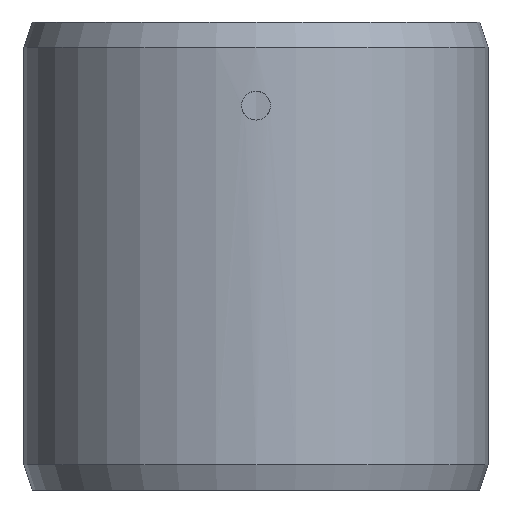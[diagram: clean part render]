
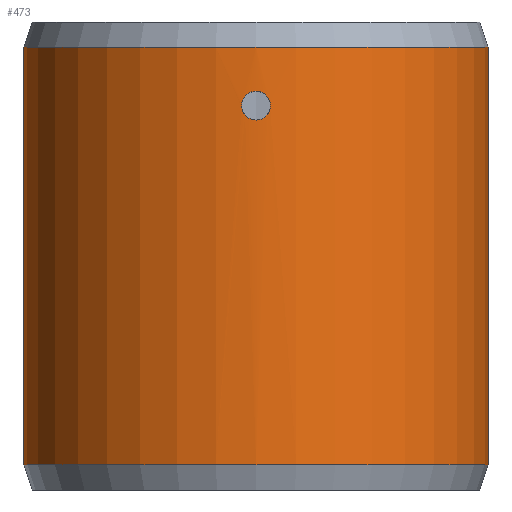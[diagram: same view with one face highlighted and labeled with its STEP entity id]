
A CAD part, front view. The second image highlights one B-rep face of the part: STEP entity #473.
In plain terms, the highlighted cylindrical face has radius 27.781 mm (diameter 55.562 mm), a partial arc.
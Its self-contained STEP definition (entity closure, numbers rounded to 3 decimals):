
#33 = CARTESIAN_POINT ( 'NONE',  ( 1.063, -27.761, 16.62 ) ) ;
#34 = CARTESIAN_POINT ( 'NONE',  ( 1.727, -27.727, 17.773 ) ) ;
#38 = DIRECTION ( 'NONE',  ( 0., 0., -1. ) ) ;
#47 = CARTESIAN_POINT ( 'NONE',  ( 27.781, 0., -25. ) ) ;
#49 = DIRECTION ( 'NONE',  ( 1., 0., 0. ) ) ;
#52 = CARTESIAN_POINT ( 'NONE',  ( -1.51, -27.74, 17.131 ) ) ;
#62 = EDGE_CURVE ( 'NONE', #222, #710, #960, .T. ) ;
#66 = CARTESIAN_POINT ( 'NONE',  ( -1.553, -27.738, 18.765 ) ) ;
#74 = DIRECTION ( 'NONE',  ( 1., 0., 0. ) ) ;
#109 = CARTESIAN_POINT ( 'NONE',  ( 0.87, -27.768, 16.491 ) ) ;
#121 = VERTEX_POINT ( 'NONE', #537 ) ;
#129 = CARTESIAN_POINT ( 'NONE',  ( -1.727, -27.728, 17.774 ) ) ;
#140 = CARTESIAN_POINT ( 'NONE',  ( -0.227, -27.781, 19.716 ) ) ;
#145 = VECTOR ( 'NONE', #38, 1000. ) ;
#161 = CARTESIAN_POINT ( 'NONE',  ( -27.781, 0., -25. ) ) ;
#197 = CARTESIAN_POINT ( 'NONE',  ( 1.499, -27.741, 18.866 ) ) ;
#200 = CARTESIAN_POINT ( 'NONE',  ( -1.716, -27.728, 18.227 ) ) ;
#211 = ORIENTED_EDGE ( 'NONE', *, *, #297, .T. ) ;
#215 = CARTESIAN_POINT ( 'NONE',  ( -0.766, -27.771, 19.552 ) ) ;
#222 = VERTEX_POINT ( 'NONE', #863 ) ;
#252 = CARTESIAN_POINT ( 'NONE',  ( 0.225, -27.781, 19.727 ) ) ;
#272 = VERTEX_POINT ( 'NONE', #47 ) ;
#275 = CARTESIAN_POINT ( 'NONE',  ( -0.447, -27.778, 16.328 ) ) ;
#276 = CARTESIAN_POINT ( 'NONE',  ( 0., 0., 28. ) ) ;
#280 = CARTESIAN_POINT ( 'NONE',  ( -1.639, -27.733, 18.556 ) ) ;
#282 = DIRECTION ( 'NONE',  ( -1., 0., 0. ) ) ;
#285 = CARTESIAN_POINT ( 'NONE',  ( 27.781, 0., 25. ) ) ;
#296 = CARTESIAN_POINT ( 'NONE',  ( -1.054, -27.761, 19.373 ) ) ;
#297 = EDGE_CURVE ( 'NONE', #121, #630, #741, .T. ) ;
#333 = CARTESIAN_POINT ( 'NONE',  ( 1.302, -27.751, 16.859 ) ) ;
#337 = CARTESIAN_POINT ( 'NONE',  ( -0.114, -27.781, 16.273 ) ) ;
#339 = CARTESIAN_POINT ( 'NONE',  ( 1.061, -27.761, 19.381 ) ) ;
#343 = EDGE_CURVE ( 'NONE', #710, #222, #724, .T. ) ;
#348 = CYLINDRICAL_SURFACE ( 'NONE', #700, 27.781 ) ;
#352 = CARTESIAN_POINT ( 'NONE',  ( -0.766, -27.771, 16.448 ) ) ;
#355 = VECTOR ( 'NONE', #894, 1000. ) ;
#357 = CIRCLE ( 'NONE', #499, 27.781 ) ;
#363 = CARTESIAN_POINT ( 'NONE',  ( -1.374, -27.747, 19.053 ) ) ;
#391 = AXIS2_PLACEMENT_3D ( 'NONE', #954, #501, #49 ) ;
#398 = EDGE_LOOP ( 'NONE', ( #798, #474, #211, #607 ) ) ;
#406 = CARTESIAN_POINT ( 'NONE',  ( 1.5, -27.741, 17.136 ) ) ;
#411 = CARTESIAN_POINT ( 'NONE',  ( -27.781, 0., 28. ) ) ;
#418 = CARTESIAN_POINT ( 'NONE',  ( 1.716, -27.728, 18.228 ) ) ;
#421 = CARTESIAN_POINT ( 'NONE',  ( -1.053, -27.761, 16.626 ) ) ;
#437 = CARTESIAN_POINT ( 'NONE',  ( 0., -27.781, 19.727 ) ) ;
#443 = CARTESIAN_POINT ( 'NONE',  ( -1.302, -27.751, 19.14 ) ) ;
#444 = EDGE_CURVE ( 'NONE', #630, #272, #796, .T. ) ;
#473 = ADVANCED_FACE ( 'NONE', ( #770, #745 ), #348, .T. ) ;
#474 = ORIENTED_EDGE ( 'NONE', *, *, #967, .T. ) ;
#487 = CARTESIAN_POINT ( 'NONE',  ( 1.683, -27.73, 17.549 ) ) ;
#493 = CARTESIAN_POINT ( 'NONE',  ( 0.868, -27.768, 19.51 ) ) ;
#499 = AXIS2_PLACEMENT_3D ( 'NONE', #978, #524, #74 ) ;
#500 = CARTESIAN_POINT ( 'NONE',  ( 0., -27.781, 16.273 ) ) ;
#501 = DIRECTION ( 'NONE',  ( 0., 0., 1. ) ) ;
#505 = CARTESIAN_POINT ( 'NONE',  ( -1.381, -27.747, 16.938 ) ) ;
#510 = VERTEX_POINT ( 'NONE', #285 ) ;
#512 = CARTESIAN_POINT ( 'NONE',  ( 0., -27.781, 16.273 ) ) ;
#524 = DIRECTION ( 'NONE',  ( 0., 0., -1. ) ) ;
#537 = CARTESIAN_POINT ( 'NONE',  ( -27.781, 0., 25. ) ) ;
#553 = CARTESIAN_POINT ( 'NONE',  ( 0.455, -27.778, 16.319 ) ) ;
#558 = CARTESIAN_POINT ( 'NONE',  ( 1.727, -27.728, 18.115 ) ) ;
#562 = EDGE_LOOP ( 'NONE', ( #629, #875 ) ) ;
#564 = CARTESIAN_POINT ( 'NONE',  ( 0.453, -27.778, 19.682 ) ) ;
#574 = CARTESIAN_POINT ( 'NONE',  ( -1.682, -27.73, 17.547 ) ) ;
#594 = CARTESIAN_POINT ( 'NONE',  ( -0.449, -27.778, 19.672 ) ) ;
#607 = ORIENTED_EDGE ( 'NONE', *, *, #444, .T. ) ;
#629 = ORIENTED_EDGE ( 'NONE', *, *, #343, .T. ) ;
#630 = VERTEX_POINT ( 'NONE', #161 ) ;
#639 = CARTESIAN_POINT ( 'NONE',  ( 0.228, -27.781, 16.273 ) ) ;
#653 = CARTESIAN_POINT ( 'NONE',  ( 1.552, -27.738, 18.767 ) ) ;
#657 = CARTESIAN_POINT ( 'NONE',  ( 1.373, -27.747, 19.054 ) ) ;
#661 = CARTESIAN_POINT ( 'NONE',  ( -1.727, -27.728, 18.112 ) ) ;
#675 = CARTESIAN_POINT ( 'NONE',  ( -0.556, -27.776, 19.639 ) ) ;
#700 = AXIS2_PLACEMENT_3D ( 'NONE', #276, #725, #282 ) ;
#710 = VERTEX_POINT ( 'NONE', #512 ) ;
#721 = CARTESIAN_POINT ( 'NONE',  ( 1.638, -27.733, 18.558 ) ) ;
#722 = CARTESIAN_POINT ( 'NONE',  ( -1.672, -27.731, 18.448 ) ) ;
#724 = B_SPLINE_CURVE_WITH_KNOTS ( 'NONE', 3,
 ( #500, #337, #882, #275, #804, #352, #884, #421, #956, #505, #52, #574, #129, #661, #200, #722, #280, #66, #898, #363, #443, #827, #296, #742, #215, #675, #594, #140, #971, #437 ),
 .UNSPECIFIED., .F., .F.,
 ( 4, 2, 2, 2, 2, 2, 2, 2, 2, 2, 2, 2, 2, 2, 4 ),
 ( 0., 0., 0.001, 0.001, 0.001, 0.002, 0.003, 0.003, 0.003, 0.004, 0.004, 0.004, 0.005, 0.005, 0.005 ),
 .UNSPECIFIED. ) ;
#725 = DIRECTION ( 'NONE',  ( 0., 0., -1. ) ) ;
#741 = LINE ( 'NONE', #411, #145 ) ;
#742 = CARTESIAN_POINT ( 'NONE',  ( -0.867, -27.768, 19.498 ) ) ;
#744 = EDGE_CURVE ( 'NONE', #510, #272, #885, .T. ) ;
#745 = FACE_BOUND ( 'NONE', #562, .T. ) ;
#770 = FACE_OUTER_BOUND ( 'NONE', #398, .T. ) ;
#792 = CARTESIAN_POINT ( 'NONE',  ( 1.672, -27.731, 18.448 ) ) ;
#796 = CIRCLE ( 'NONE', #391, 27.781 ) ;
#798 = ORIENTED_EDGE ( 'NONE', *, *, #744, .F. ) ;
#804 = CARTESIAN_POINT ( 'NONE',  ( -0.557, -27.776, 16.361 ) ) ;
#820 = CARTESIAN_POINT ( 'NONE',  ( 27.781, 0., 28. ) ) ;
#827 = CARTESIAN_POINT ( 'NONE',  ( -1.141, -27.758, 19.302 ) ) ;
#863 = CARTESIAN_POINT ( 'NONE',  ( 0., -27.781, 19.727 ) ) ;
#869 = CARTESIAN_POINT ( 'NONE',  ( 1.375, -27.747, 16.948 ) ) ;
#875 = ORIENTED_EDGE ( 'NONE', *, *, #62, .T. ) ;
#876 = CARTESIAN_POINT ( 'NONE',  ( 1.3, -27.751, 19.143 ) ) ;
#882 = CARTESIAN_POINT ( 'NONE',  ( -0.226, -27.781, 16.284 ) ) ;
#884 = CARTESIAN_POINT ( 'NONE',  ( -0.865, -27.768, 16.501 ) ) ;
#885 = LINE ( 'NONE', #820, #355 ) ;
#894 = DIRECTION ( 'NONE',  ( 0., 0., -1. ) ) ;
#898 = CARTESIAN_POINT ( 'NONE',  ( -1.499, -27.741, 18.866 ) ) ;
#935 = CARTESIAN_POINT ( 'NONE',  ( 1.553, -27.738, 17.235 ) ) ;
#942 = CARTESIAN_POINT ( 'NONE',  ( 0., -27.781, 19.727 ) ) ;
#947 = CARTESIAN_POINT ( 'NONE',  ( 0., -27.781, 16.273 ) ) ;
#954 = CARTESIAN_POINT ( 'NONE',  ( 0., 0., -25. ) ) ;
#956 = CARTESIAN_POINT ( 'NONE',  ( -1.142, -27.758, 16.699 ) ) ;
#960 = B_SPLINE_CURVE_WITH_KNOTS ( 'NONE', 3,
 ( #942, #252, #564, #493, #339, #876, #657, #197, #653, #721, #792, #418, #558, #34, #487, #935, #406, #869, #333, #33, #109, #553, #639, #947 ),
 .UNSPECIFIED., .F., .F.,
 ( 4, 2, 2, 2, 2, 2, 2, 2, 2, 2, 2, 4 ),
 ( 0.005, 0.006, 0.007, 0.007, 0.007, 0.008, 0.008, 0.009, 0.009, 0.009, 0.01, 0.011 ),
 .UNSPECIFIED. ) ;
#967 = EDGE_CURVE ( 'NONE', #510, #121, #357, .T. ) ;
#971 = CARTESIAN_POINT ( 'NONE',  ( -0.113, -27.781, 19.727 ) ) ;
#978 = CARTESIAN_POINT ( 'NONE',  ( 0., 0., 25. ) ) ;
